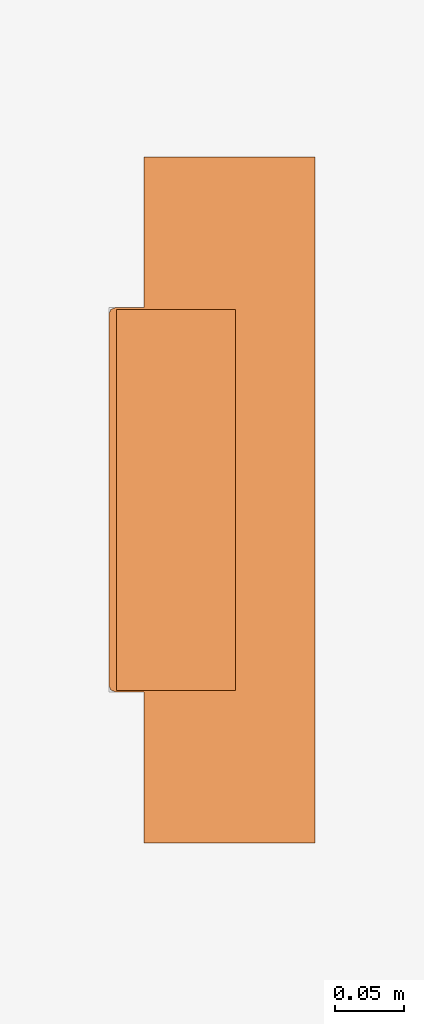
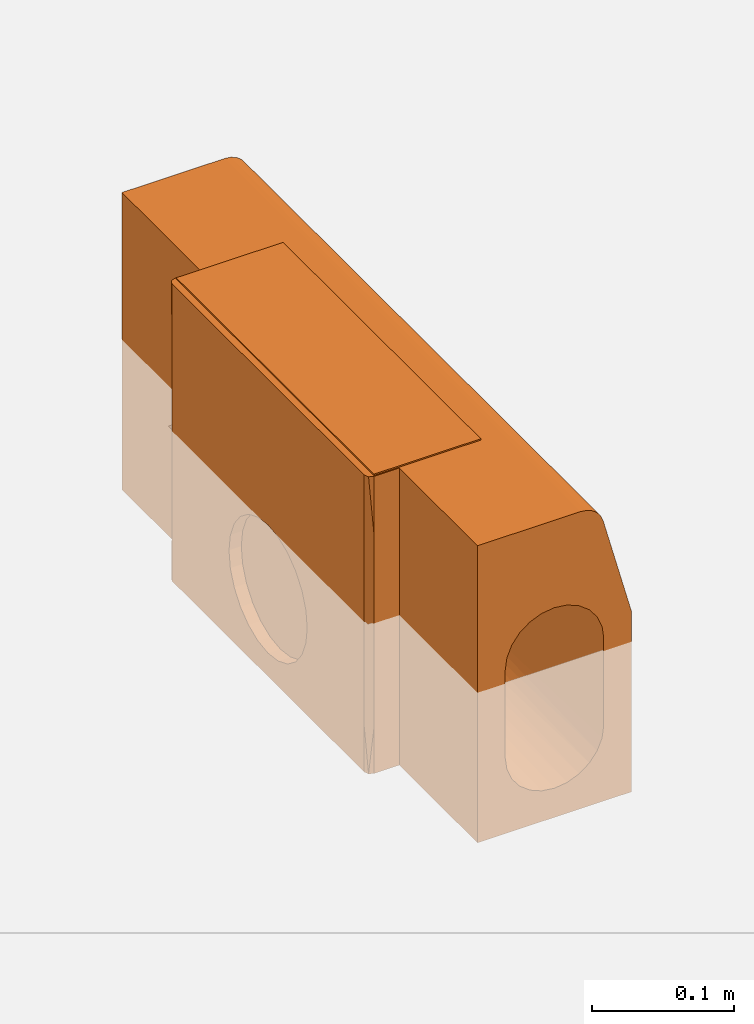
# One storey, part 2 of 2: 1 proxy.
"""IFC2X3 building model written with IfcOpenShell, lengths in millimetres."""

from ifc_helpers import new_model, entity, si_unit, converted_unit, direction, frame, origin, place, context, subcontext, project, spatial, faceted_brep, source, transform, mapped, material, material_list, element, save


model = new_model("IFC2X3")

# Units and contexts
model_context = context("Model", 3, precision=1e-06, world=origin(), true_north=direction((2.0, 6.12303176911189e-17, 1.0)))
context_of_model = context(None, 3, precision=1e-06, world=origin(), true_north=direction((2.0, 6.12303176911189e-17, 1.0)))
body_context = subcontext(model_context, "Body", "Model", "MODEL_VIEW")
ifc_project = project(units=[si_unit("LENGTHUNIT", "METRE", prefix="MILLI"), si_unit("AREAUNIT", "SQUARE_METRE", prefix="MILLI"), si_unit("VOLUMEUNIT", "CUBIC_METRE", prefix="MILLI"), converted_unit("PLANEANGLEUNIT", "DEGREE", entity("IfcRatioMeasure", 0.0174532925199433), si_unit("PLANEANGLEUNIT", "RADIAN"), dimensions=[0, 0, 0, 0, 0, 0, 0]), si_unit("TIMEUNIT", "SECOND")], contexts=[model_context, context_of_model])

# Site, building, storey
site_placement = place(None, origin())
site = spatial("IfcSite", under=ifc_project, at=site_placement, Name="Default", CompositionType="ELEMENT")
building_placement = place(site_placement, origin())
building = spatial("IfcBuilding", under=site, at=building_placement, CompositionType="ELEMENT")
storey_placement = place(building_placement, origin())
storey = spatial("IfcBuildingStorey", under=building, at=storey_placement, Name="Level 1", CompositionType="ELEMENT", Elevation=0.0)

# Proxy
ifc_material_1 = material(Name="Iron, Cast")
ifc_material_2 = material(Name="ACO Polymer Concrete.")
ifc_material_list = material_list([ifc_material_1, ifc_material_2])
shared_shape = source(origin(), body_context, "Body", "Brep", [
    faceted_brep([(-82.5000000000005, 111.0, 126.144067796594), (-82.5000000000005, 111.0, 125.0), (-62.5000000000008, 111.0, 125.0), (4.30487606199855, 111.0, 126.144067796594), (4.30487606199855, 111.0, 123.263731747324), (-62.5000000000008, 111.0, 123.263731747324), (-62.5000000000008, 389.0, 125.0), (4.30487606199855, 389.0, 126.144067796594), (4.30487606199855, 389.0, 123.263731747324), (-62.5000000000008, 389.0, 123.263731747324), (-82.5000000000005, 389.0, 126.144067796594), (-82.5000000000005, 389.0, 125.0)], [[[0, 1, 2, 3]], [[4, 3, 2, 5]], [[6, 7, 8, 9]], [[10, 7, 6, 11]], [[5, 9, 8, 4]], [[0, 10, 11, 1]], [[4, 8, 7, 3]], [[3, 7, 10, 0]], [[6, 9, 5, 2]], [[6, 2, 1, 11]]]),
    faceted_brep([(-62.4999999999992, 500.0, -130.0), (-62.4999999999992, 390.350941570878, -130.0), (-62.5000000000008, 390.350941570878, 125.0), (-62.5000000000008, 500.0, 125.0), (21.1258679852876, 500.0, 125.0), (-62.5000000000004, 110.0, 125.0), (-88.0515234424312, 385.350941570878, 125.0), (-88.0515234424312, 115.0, 125.0), (-62.5000000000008, 0.0, 125.0), (21.1258679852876, 0.0, 125.0), (21.1258679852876, 152.199845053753, 125.0), (-83.0515234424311, 390.350941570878, 125.0), (-86.5870573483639, 388.886475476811, 125.0), (-86.5870573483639, 111.46446609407, 125.0), (-83.0515234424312, 110.0, 125.0), (-88.0515234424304, 385.350941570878, -130.0), (-86.5870573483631, 388.886475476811, -130.0), (-83.0515234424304, 390.350941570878, -130.0), (-38.8908729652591, 288.890872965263, -130.0), (-47.6313972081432, 277.500000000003, -130.0), (-27.4999999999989, 297.631397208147, -130.0), (-53.1259204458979, 264.235047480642, -130.0), (-55.0, 250.0, -130.0), (-88.0515234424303, 115.0, -130.0), (-83.0515234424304, 110.0, -130.0), (-86.5870573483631, 111.46446609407, -130.0), (-62.4999999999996, 110.0, -130.0), (-38.8908729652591, 211.109127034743, -130.0), (-47.6313972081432, 222.500000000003, -130.0), (-27.4999999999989, 202.368602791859, -130.0), (62.5000000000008, 0.0, -130.0), (-62.4999999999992, 0.0, -130.0), (14.2350474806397, 196.874079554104, -130.0), (-53.1259204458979, 235.764952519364, -130.0), (-14.2350474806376, 196.874079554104, -130.0), (62.5000000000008, 500.0, -130.0), (14.2350474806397, 303.125920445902, -130.0), (0.0, 305.0, -130.0), (-14.2350474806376, 303.125920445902, -130.0), (27.500000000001, 297.631397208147, -130.0), (38.8908729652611, 288.890872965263, -130.0), (47.6313972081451, 277.500000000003, -130.0), (53.1259204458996, 264.235047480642, -130.0), (55.0, 250.0, -130.0), (27.500000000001, 202.368602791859, -130.0), (0.0, 195.0, -130.0), (53.1259204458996, 235.764952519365, -130.0), (38.8908729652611, 211.109127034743, -130.0), (47.6313972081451, 222.500000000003, -130.0), (-83.0515234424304, 390.350941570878, -90.9615571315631), (-88.0515234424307, 277.67547078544, -7.36860279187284), (-88.0515234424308, 264.410518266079, -1.87407955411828), (-88.0515234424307, 289.0663437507, -16.1091270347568), (-88.0515234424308, 250.17547078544, 0.0), (-88.0515234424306, 305.17547078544, -55.0), (-88.0515234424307, 303.301391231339, -40.7649525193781), (-88.0515234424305, 385.350941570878, -80.5768841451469), (-88.0515234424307, 297.806867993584, -27.5000000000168), (-88.0515234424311, 385.350941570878, 85.9615540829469), (-88.0515234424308, 235.940423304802, -1.8740795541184), (-88.0515234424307, 222.67547078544, -7.36860279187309), (-88.0515234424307, 211.28459782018, -16.1091270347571), (-88.0515234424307, 202.544073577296, -27.5000000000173), (-88.0515234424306, 197.049550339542, -40.7649525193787), (-88.0515234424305, 115.0, -90.9615565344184), (-88.0515234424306, 195.17547078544, -55.0), (-88.0515234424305, 297.806867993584, -82.5000000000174), (-88.0515234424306, 303.301391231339, -69.2350474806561), (-88.0515234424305, 289.0663437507, -93.8908729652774), (-88.0515234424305, 277.67547078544, -102.631397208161), (-88.0515234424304, 264.410518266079, -108.125920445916), (-88.0515234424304, 250.17547078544, -110.0), (-88.0515234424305, 197.049550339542, -69.2350474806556), (-88.0515234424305, 202.544073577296, -82.5000000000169), (-88.0515234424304, 222.67547078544, -102.631397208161), (-88.0515234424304, 235.940423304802, -108.125920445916), (-88.0515234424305, 211.28459782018, -93.8908729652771), (-83.0515234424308, 390.350941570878, 29.3750007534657), (-83.0515234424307, 390.350941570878, -2.50000000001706), (-88.0515234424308, 385.350941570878, 7.88467250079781), (-88.0515234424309, 385.350941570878, 46.9231132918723), (-83.051523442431, 390.350941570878, 85.961557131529), (-83.0515234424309, 390.350941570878, 61.2499984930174), (-88.0515234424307, 385.350941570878, -31.1537734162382), (-83.0515234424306, 390.350941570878, -34.3750007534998), (-83.0515234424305, 390.350941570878, -66.2499984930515), (-88.0515234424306, 115.0, -51.9231130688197), (-83.0515234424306, 110.0, -51.9231133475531), (-83.0515234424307, 110.0, -12.8846696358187), (-88.0515234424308, 115.0, -2.50000000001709), (-88.051523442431, 115.0, 61.2499999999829), (-83.051523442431, 110.0, 75.5768870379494), (-88.0515234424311, 115.0, 85.9615565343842), (-88.0515234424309, 115.0, 29.3749999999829), (-83.0515234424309, 110.0, 26.1537740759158), (-83.0515234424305, 110.0, -90.9615570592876), (-78.0515234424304, 264.410518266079, -108.125920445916), (-78.0515234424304, 250.17547078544, -110.0), (-78.0515234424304, 277.67547078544, -102.631397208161), (-78.0515234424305, 289.0663437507, -93.8908729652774), (-78.0515234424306, 305.17547078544, -55.0), (-78.0515234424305, 297.806867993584, -82.5000000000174), (-78.0515234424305, 303.301391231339, -69.2350474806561), (-78.0515234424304, 222.67547078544, -102.631397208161), (-78.0515234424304, 235.940423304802, -108.125920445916), (-78.0515234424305, 211.28459782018, -93.890872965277), (-78.0515234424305, 202.544073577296, -82.5000000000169), (-78.0515234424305, 197.049550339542, -69.2350474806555), (-78.0515234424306, 303.301391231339, -40.7649525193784), (-78.0515234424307, 297.806867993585, -27.5000000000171), (-78.0515234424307, 250.17547078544, 0.0), (-78.0515234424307, 277.67547078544, -7.36860279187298), (-78.0515234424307, 289.066343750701, -16.109127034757), (-78.0515234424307, 264.410518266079, -1.87407955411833), (-78.0515234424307, 211.28459782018, -16.1091270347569), (-78.0515234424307, 222.675470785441, -7.36860279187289), (-78.0515234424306, 197.049550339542, -40.7649525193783), (-78.0515234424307, 202.544073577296, -27.500000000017), (-78.0515234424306, 195.17547078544, -55.0), (-78.0515234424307, 235.940423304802, -1.87407955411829), (-34.6410161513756, 0.0, -85.0), (-38.6370330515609, 0.0, -75.3527618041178), (-28.2842712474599, 0.0, -93.2842712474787), (-40.0, 0.0, -65.0), (-40.0, 0.0, 10.0), (10.3527618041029, 0.0, -103.637033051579), (0.0, 0.0, -105.0), (-20.0, 0.0, -99.6410161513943), (-10.3527618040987, 0.0, -103.637033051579), (-38.637033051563, 0.0, 20.3527618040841), (-34.6410161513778, 0.0, 30.0), (-28.2842712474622, 0.0, 38.2842712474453), (-20.0, 0.0, 44.641016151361), (-10.3527618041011, 0.0, 48.6370330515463), (0.0, 0.0, 50.0), (10.3527618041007, 0.0, 48.6370330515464), (39.4784586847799, 0.0, 110.917561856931), (28.2842712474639, 0.0, -93.2842712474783), (20.0, 0.0, -99.6410161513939), (34.6410161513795, 0.0, -85.0), (38.6370330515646, 0.0, -75.3527618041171), (40.0, 0.0, -65.0), (62.4999999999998, 0.0, 25.0), (40.0, 0.0, 10.0), (38.6370330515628, 0.0, 20.3527618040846), (34.6410161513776, 0.0, 30.0), (30.6258679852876, 0.0, 122.454482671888), (26.0434298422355, 0.0, 124.352590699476), (34.560896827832, 0.0, 119.435028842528), (20.0, 0.0, 44.6410161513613), (28.2842712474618, 0.0, 38.2842712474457), (37.5803506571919, 0.0, 115.499999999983), (40.0, 500.0, -65.0), (62.4999999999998, 500.0, 25.0), (38.6370330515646, 500.0, -75.3527618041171), (40.0, 500.0, 10.0), (38.6370330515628, 500.0, 20.3527618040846), (20.0, 500.0, -99.6410161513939), (28.2842712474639, 500.0, -93.2842712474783), (34.6410161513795, 500.0, -85.0), (10.3527618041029, 500.0, -103.637033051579), (34.6410161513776, 500.0, 30.0), (37.5803506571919, 500.0, 115.499999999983), (39.4784586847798, 500.0, 110.917561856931), (34.560896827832, 500.0, 119.435028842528), (28.2842712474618, 500.0, 38.2842712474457), (0.0, 500.0, 50.0), (-10.3527618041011, 500.0, 48.6370330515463), (26.0434298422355, 500.0, 124.352590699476), (30.6258679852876, 500.0, 122.454482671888), (20.0, 500.0, 44.6410161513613), (10.3527618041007, 500.0, 48.6370330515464), (-10.3527618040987, 500.0, -103.637033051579), (0.0, 500.0, -105.0), (-20.0, 500.0, -99.6410161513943), (-28.2842712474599, 500.0, -93.2842712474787), (-34.6410161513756, 500.0, -85.0), (-38.6370330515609, 500.0, -75.3527618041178), (-40.0, 500.0, -65.0), (-40.0, 500.0, 10.0), (-20.0, 500.0, 44.641016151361), (-38.637033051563, 500.0, 20.3527618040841), (-28.2842712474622, 500.0, 38.2842712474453), (-34.6410161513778, 500.0, 30.0), (36.9551813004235, 250.0, -80.307337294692), (-39.2333095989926, 259.048058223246, -72.7940629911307), (-36.9551813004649, 250.0, -80.3073372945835), (39.2333095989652, 240.951941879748, -72.7940629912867), (31.7341336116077, 250.0, -89.350457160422), (15.3073372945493, 250.0, -101.955181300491), (-5.22104768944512, 250.0, -104.657794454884), (-15.3073372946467, 250.0, -101.955181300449), (5.22104768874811, 250.0, -104.657794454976), (24.3504571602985, 250.0, -96.7341336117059), (-24.350457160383, 250.0, -96.7341336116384), (40.0, 220.834780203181, -65.0), (-31.7341336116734, 250.0, -89.3504571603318), (-40.0, 279.165219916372, -65.0), (-40.0, 220.834780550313, 10.0), (-36.9551813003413, 250.0, 25.3073372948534), (39.2333095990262, 259.048058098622, 17.7940629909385), (36.9551813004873, 250.0, 25.3073372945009), (-39.2333095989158, 240.951942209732, 17.794062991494), (-31.7341336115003, 250.0, 34.3504571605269), (-15.3073372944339, 250.0, 46.9551813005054), (5.22104769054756, 250.0, 49.6577944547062), (15.3073372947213, 250.0, 46.9551813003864), (-5.22104768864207, 250.0, 49.6577944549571), (-24.3504571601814, 250.0, 41.7341336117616), (24.3504571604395, 250.0, 41.7341336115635), (31.7341336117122, 250.0, 34.3504571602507), (40.0, 279.16521981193, 10.0), (39.4784586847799, 423.900064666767, 110.917561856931), (32.6923351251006, 383.807890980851, 121.073713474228), (36.1995814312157, 348.576324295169, 117.566467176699), (38.1694822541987, 104.875634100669, 114.39733366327), (36.1995813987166, 151.423670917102, 117.566467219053), (28.3968531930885, 348.576326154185, 123.553711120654), (24.5249115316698, 364.149902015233, 124.693488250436), (25.1444103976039, 238.971100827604, 124.570172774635), (38.0232021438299, 238.971095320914, 114.687928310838), (39.4784586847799, 304.399745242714, 110.917561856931), (38.302653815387, 364.149900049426, 114.121454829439), (32.6923350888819, 116.192108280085, 121.07371350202), (35.4951537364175, 249.99999804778, 118.430753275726), (29.4140087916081, 250.0, 123.096979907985), (32.6923351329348, 249.999999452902, 121.073713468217), (21.1258679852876, 423.900077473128, 125.0), (39.4784586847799, 152.199872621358, 110.917561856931), (28.3968531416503, 151.423674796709, 123.55371114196), (21.1258679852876, 304.399690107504, 125.0), (24.8258574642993, 104.875635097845, 124.63625707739), (-38.8908729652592, 288.890872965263, -115.0), (-27.499999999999, 297.631397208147, -115.0), (-14.2350474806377, 303.125920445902, -115.0), (0.0, 305.0, -115.0), (-55.0, 250.0, -115.0), (-53.125920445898, 264.235047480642, -115.0), (-47.6313972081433, 277.500000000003, -115.0), (-53.1259204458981, 235.764952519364, -115.0), (53.1259204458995, 264.235047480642, -115.0), (-27.4999999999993, 202.368602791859, -115.0), (-38.8908729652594, 211.109127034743, -115.0), (14.2350474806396, 303.125920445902, -115.0), (27.5000000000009, 297.631397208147, -115.0), (38.890872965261, 288.890872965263, -115.0), (47.631397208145, 277.500000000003, -115.0), (-47.6313972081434, 222.500000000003, -115.0), (0.0, 195.0, -115.0), (-14.235047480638, 196.874079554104, -115.0), (27.5000000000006, 202.368602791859, -115.0), (47.6313972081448, 222.500000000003, -115.0), (55.0, 250.0, -115.0), (53.1259204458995, 235.764952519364, -115.0), (38.8908729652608, 211.109127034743, -115.0), (14.2350474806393, 196.874079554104, -115.0)], [[[0, 1, 2, 3]], [[4, 3, 2, 5]], [[5, 2, 6, 7]], [[5, 8, 9, 10]], [[11, 12, 6, 2]], [[7, 13, 14, 5]], [[15, 16, 17, 1]], [[18, 19, 15]], [[15, 1, 20, 18]], [[15, 21, 22, 23]], [[21, 15, 19]], [[24, 25, 23, 26]], [[27, 23, 28]], [[29, 26, 23, 27]], [[30, 31, 26, 32]], [[28, 23, 33]], [[23, 22, 33]], [[34, 26, 29]], [[35, 1, 0]], [[36, 37, 1, 35]], [[20, 1, 38]], [[38, 1, 37]], [[39, 35, 40]], [[35, 39, 36]], [[41, 40, 35]], [[42, 41, 35]], [[35, 43, 42]], [[44, 30, 32]], [[32, 26, 45]], [[46, 43, 30]], [[47, 48, 30]], [[30, 48, 46]], [[47, 30, 44]], [[43, 35, 30]], [[45, 26, 34]], [[17, 49, 2, 1]], [[6, 50, 51]], [[50, 6, 52]], [[6, 51, 53]], [[15, 54, 55, 56]], [[57, 52, 6]], [[55, 57, 6, 58]], [[53, 59, 7, 6]], [[7, 59, 60]], [[60, 61, 7]], [[62, 63, 7]], [[61, 62, 7]], [[23, 64, 63, 65]], [[66, 67, 15]], [[68, 66, 15]], [[69, 15, 70]], [[15, 69, 68]], [[71, 70, 15, 23]], [[67, 54, 15]], [[72, 73, 23]], [[65, 72, 23]], [[74, 75, 23]], [[76, 23, 73]], [[23, 76, 74]], [[75, 71, 23]], [[77, 78, 79, 80]], [[58, 81, 82, 80]], [[56, 49, 16]], [[12, 81, 58]], [[16, 15, 56]], [[12, 11, 81]], [[83, 78, 84, 85]], [[85, 49, 56, 83]], [[58, 6, 12]], [[49, 17, 16]], [[78, 83, 79]], [[80, 82, 77]], [[86, 87, 88, 89]], [[90, 91, 92]], [[91, 13, 92]], [[91, 14, 13]], [[90, 93, 94, 91]], [[25, 24, 95]], [[25, 95, 64]], [[13, 7, 92]], [[89, 88, 94, 93]], [[95, 87, 86, 64]], [[64, 23, 25]], [[5, 14, 91, 94]], [[24, 26, 5]], [[96, 97, 98]], [[99, 98, 100, 101]], [[100, 102, 101]], [[103, 100, 98, 97]], [[104, 103, 97]], [[103, 105, 106, 107]], [[100, 103, 107, 108]], [[109, 108, 110, 111]], [[112, 109, 111]], [[110, 113, 111]], [[110, 108, 114, 115]], [[116, 117, 114, 118]], [[118, 114, 108, 107]], [[110, 115, 119]], [[107, 72, 65, 118]], [[106, 73, 72, 107]], [[103, 74, 76, 105]], [[105, 76, 73, 106]], [[104, 75, 74, 103]], [[75, 104, 97, 71]], [[96, 70, 71, 97]], [[98, 69, 70, 96]], [[101, 66, 68, 99]], [[99, 68, 69, 98]], [[102, 67, 66, 101]], [[67, 102, 100, 54]], [[108, 55, 54, 100]], [[109, 57, 55, 108]], [[111, 50, 52, 112]], [[112, 52, 57, 109]], [[113, 51, 50, 111]], [[51, 113, 110, 53]], [[119, 59, 53, 110]], [[115, 60, 59, 119]], [[117, 62, 61, 114]], [[114, 61, 60, 115]], [[116, 63, 62, 117]], [[63, 116, 118, 65]], [[31, 120, 121]], [[120, 31, 122]], [[121, 123, 31]], [[31, 123, 124]], [[30, 125, 126]], [[127, 122, 31]], [[128, 127, 31]], [[126, 128, 31, 30]], [[124, 129, 8, 31]], [[8, 130, 131]], [[130, 8, 129]], [[131, 132, 8]], [[133, 134, 9, 8]], [[132, 133, 8]], [[134, 135, 136, 9]], [[137, 138, 30]], [[137, 30, 139]], [[140, 30, 141]], [[30, 140, 139]], [[142, 143, 141, 30]], [[143, 142, 144]], [[138, 125, 30]], [[144, 142, 145]], [[146, 147, 9, 148]], [[136, 149, 150, 142]], [[136, 135, 149]], [[9, 136, 151, 148]], [[150, 145, 142]], [[152, 153, 35, 154]], [[153, 155, 156]], [[155, 153, 152]], [[157, 158, 35]], [[159, 154, 35]], [[158, 159, 35]], [[35, 160, 157]], [[153, 156, 161]], [[162, 163, 4, 164]], [[153, 161, 165, 163]], [[4, 163, 166, 167]], [[4, 168, 169, 164]], [[163, 170, 171]], [[170, 163, 165]], [[172, 173, 0]], [[172, 0, 174]], [[173, 160, 35, 0]], [[175, 0, 176]], [[0, 175, 174]], [[177, 176, 0]], [[178, 177, 0]], [[179, 178, 0, 3]], [[3, 4, 167, 180]], [[181, 179, 3]], [[182, 183, 3]], [[3, 183, 181]], [[182, 3, 180]], [[166, 163, 171]], [[31, 8, 5, 26]], [[139, 140, 184]], [[185, 121, 186]], [[154, 187, 152]], [[139, 188, 137]], [[125, 138, 189]], [[128, 190, 191]], [[192, 173, 190]], [[193, 138, 137]], [[187, 154, 184]], [[126, 125, 192]], [[187, 184, 140]], [[194, 127, 191]], [[195, 152, 187, 141]], [[188, 139, 184]], [[159, 188, 184]], [[184, 154, 159]], [[157, 189, 193]], [[188, 159, 158]], [[157, 193, 158]], [[192, 125, 189]], [[189, 157, 160]], [[193, 137, 188]], [[192, 160, 173]], [[121, 185, 123]], [[127, 128, 191]], [[175, 196, 194]], [[186, 120, 196]], [[127, 194, 122]], [[121, 120, 186]], [[185, 178, 197, 123]], [[174, 194, 191]], [[196, 120, 122]], [[176, 186, 196]], [[173, 172, 190]], [[191, 172, 174]], [[190, 126, 192]], [[158, 193, 188]], [[194, 174, 175]], [[172, 191, 190]], [[196, 175, 176]], [[177, 186, 176]], [[187, 140, 141]], [[185, 186, 177]], [[160, 192, 189]], [[196, 122, 194]], [[128, 126, 190]], [[177, 178, 185]], [[189, 138, 193]], [[179, 198, 123, 197]], [[130, 129, 199]], [[200, 144, 201]], [[181, 202, 179]], [[130, 203, 131]], [[133, 132, 204]], [[135, 205, 206]], [[207, 166, 205]], [[208, 132, 131]], [[202, 181, 199]], [[134, 133, 207]], [[202, 199, 129]], [[209, 149, 206]], [[198, 179, 202, 124]], [[203, 130, 199]], [[183, 203, 199]], [[199, 181, 183]], [[180, 204, 208]], [[203, 183, 182]], [[180, 208, 182]], [[207, 133, 204]], [[204, 180, 167]], [[208, 131, 203]], [[207, 167, 166]], [[144, 200, 143]], [[149, 135, 206]], [[165, 210, 209]], [[201, 145, 210]], [[149, 209, 150]], [[144, 145, 201]], [[200, 155, 211, 143]], [[170, 209, 206]], [[210, 145, 150]], [[161, 201, 210]], [[166, 171, 205]], [[206, 171, 170]], [[205, 134, 207]], [[182, 208, 203]], [[209, 170, 165]], [[171, 206, 205]], [[210, 165, 161]], [[156, 201, 161]], [[202, 129, 124]], [[200, 201, 156]], [[167, 207, 204]], [[210, 150, 209]], [[135, 134, 205]], [[156, 155, 200]], [[204, 132, 208]], [[152, 195, 143, 211]], [[153, 142, 30, 35]], [[163, 212, 142, 153]], [[164, 213, 214]], [[151, 215, 216]], [[217, 218, 219]], [[220, 221, 222]], [[162, 164, 214]], [[222, 162, 214]], [[223, 216, 224]], [[169, 168, 217]], [[164, 169, 213]], [[151, 216, 148]], [[225, 213, 217]], [[162, 212, 163]], [[226, 223, 224, 213]], [[168, 4, 227]], [[136, 228, 215]], [[146, 229, 147]], [[218, 227, 230]], [[223, 229, 146]], [[229, 231, 147]], [[146, 148, 223]], [[226, 213, 225, 223]], [[10, 231, 219]], [[228, 221, 220]], [[217, 213, 169]], [[147, 231, 9]], [[216, 223, 148]], [[162, 222, 212]], [[221, 212, 222]], [[214, 224, 220]], [[214, 220, 222]], [[220, 216, 215]], [[219, 218, 230]], [[227, 218, 168]], [[168, 218, 217]], [[10, 219, 230]], [[219, 229, 225]], [[219, 225, 217]], [[223, 225, 229]], [[136, 215, 151]], [[220, 215, 228]], [[220, 224, 216]], [[213, 224, 214]], [[219, 231, 229]], [[9, 231, 10]], [[232, 233, 234, 235]], [[236, 237, 238, 239]], [[232, 240, 241, 242]], [[232, 242, 238]], [[240, 243, 244, 245]], [[232, 235, 243, 240]], [[246, 240, 245]], [[242, 247, 239, 238]], [[248, 249, 241, 250]], [[250, 241, 240, 251]], [[252, 253, 251, 240]], [[254, 250, 251]], [[250, 255, 248]], [[240, 42, 43, 252]], [[246, 41, 42, 240]], [[244, 39, 40, 245]], [[245, 40, 41, 246]], [[243, 36, 39, 244]], [[36, 243, 235, 37]], [[234, 38, 37, 235]], [[233, 20, 38, 234]], [[238, 19, 18, 232]], [[232, 18, 20, 233]], [[237, 21, 19, 238]], [[21, 237, 236, 22]], [[239, 33, 22, 236]], [[247, 28, 33, 239]], [[241, 29, 27, 242]], [[242, 27, 28, 247]], [[249, 34, 29, 241]], [[34, 249, 248, 45]], [[255, 32, 45, 248]], [[250, 44, 32, 255]], [[251, 48, 47, 254]], [[254, 47, 44, 250]], [[253, 46, 48, 251]], [[46, 253, 252, 43]], [[5, 10, 230, 227]], [[5, 227, 4]], [[2, 49, 85, 84]], [[2, 84, 78, 77]], [[2, 77, 82, 81]], [[2, 81, 11]], [[55, 58, 80, 79]], [[55, 79, 83, 56]], [[63, 64, 86, 89]], [[63, 89, 93, 90]], [[63, 90, 92, 7]], [[5, 94, 88, 87]], [[5, 87, 95, 24]], [[123, 198, 124]], [[179, 197, 178]], [[143, 195, 141]], [[152, 211, 155]], [[142, 212, 221, 228]], [[142, 228, 136]]]),
])
proxy_placement = place(storey_placement, frame((-10196.2247971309, 567.017866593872, 0.0)))
element("IfcBuildingElementProxy", 1, at=proxy_placement, inside=storey, material=ifc_material_list, Name="Civil-Drainage-Channel-ACO-KerbDrain-HB255:7949 - Access Unit - 500mm LG:7949 - Access Unit - 500mm LG", ObjectType="7949 - Access Unit - 500mm LG", CompositionType="ELEMENT", context=body_context, shape_type="MappedRepresentation", body=[
    mapped(shared_shape, transform((0.0, 0.0, 0.0), scale=1.0)),
])

save(model, "model.ifc")
